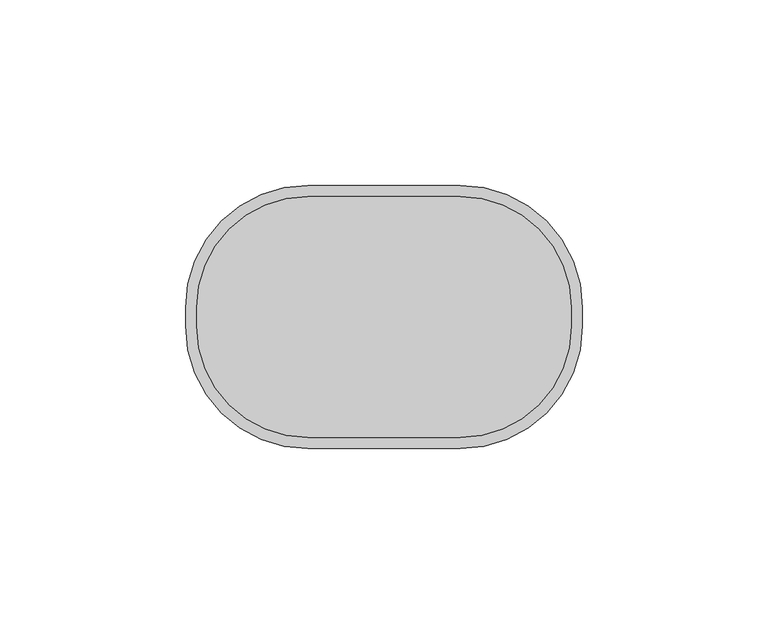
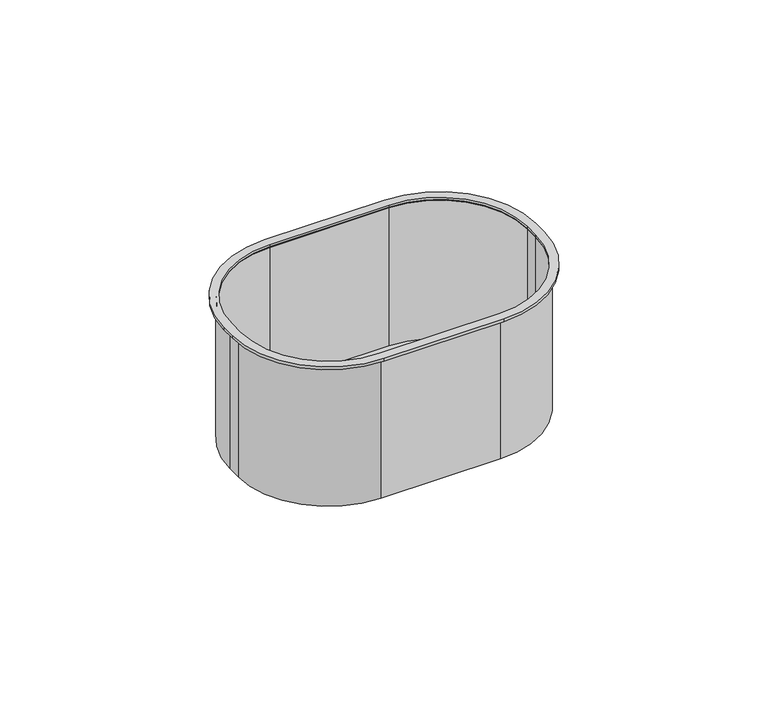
"""IFC4 building model written with IfcOpenShell, lengths in millimetres: proxy geometry, 00-Scatola da cartongesso : Scatola 3 moduli."""

from ifc_helpers import new_model, si_unit, point, frame, frame_2d, origin, origin_with_axes, place, context, project, spatial, polyline, circle_curve, trimmed, segment, composite_curve, outline, extrude, source, transform, mapped, element, save


def electrical_fixtures_69d80692(model_context):
    return source(origin(), model_context, "Body", "SweptSolid", [
        extrude(outline(composite_curve([segment(trimmed(circle_curve(frame_2d((20.5, 2.5)), 30.0), [point((20.5, 32.5))], [point((50.5, 2.5))], False, "CARTESIAN"), True, "CONTINUOUS"), segment(polyline([(50.5, 2.5), (50.5, -2.5)]), True, "CONTINUOUS"), segment(trimmed(circle_curve(frame_2d((20.5, -2.5)), 30.0), [point((50.5, -2.5))], [point((20.5, -32.5))], False, "CARTESIAN"), True, "CONTINUOUS"), segment(polyline([(20.5, -32.5), (-20.5, -32.5)]), True, "CONTINUOUS"), segment(trimmed(circle_curve(frame_2d((-20.5, -2.5)), 30.0), [point((-20.5, -32.5))], [point((-50.5, -2.5))], False, "CARTESIAN"), True, "CONTINUOUS"), segment(polyline([(-50.5, -2.5), (-50.5, 2.5)]), True, "CONTINUOUS"), segment(trimmed(circle_curve(frame_2d((-20.5, 2.5)), 30.0), [point((-50.5, 2.5))], [point((-20.5, 32.5))], False, "CARTESIAN"), True, "CONTINUOUS"), segment(polyline([(-20.5, 32.5), (20.5, 32.5)]), True, "CONTINUOUS")], self_intersect=False)), frame((0.0, 0.0, -51.0), z_axis=(0.0, 0.0, 1.0), x_axis=(1.0, 0.0, 0.0)), (0.0, 0.0, 1.0), 1.0),
        extrude(outline(composite_curve([segment(trimmed(circle_curve(frame_2d((20.5, 2.5)), 31.0), [point((20.5, 33.5))], [point((51.5, 2.5))], False, "CARTESIAN"), True, "CONTINUOUS"), segment(polyline([(51.5, 2.5), (51.5, -2.5)]), True, "CONTINUOUS"), segment(trimmed(circle_curve(frame_2d((20.5, -2.5)), 31.0), [point((51.5, -2.5))], [point((20.5, -33.5))], False, "CARTESIAN"), True, "CONTINUOUS"), segment(polyline([(20.5, -33.5), (-20.5, -33.5)]), True, "CONTINUOUS"), segment(trimmed(circle_curve(frame_2d((-20.5, -2.5)), 31.0), [point((-20.5, -33.5))], [point((-51.5, -2.5))], False, "CARTESIAN"), True, "CONTINUOUS"), segment(polyline([(-51.5, -2.5), (-51.5, 2.5)]), True, "CONTINUOUS"), segment(trimmed(circle_curve(frame_2d((-20.5, 2.5)), 31.0), [point((-51.5, 2.5))], [point((-20.5, 33.5))], False, "CARTESIAN"), True, "CONTINUOUS"), segment(polyline([(-20.5, 33.5), (20.5, 33.5)]), True, "CONTINUOUS")], self_intersect=False), holes=[composite_curve([segment(polyline([(20.5, 32.5), (-20.5, 32.5)]), True, "CONTINUOUS"), segment(trimmed(circle_curve(frame_2d((-20.5, 2.5)), 30.0), [point((-20.5, 32.5))], [point((-50.5, 2.5))], True, "CARTESIAN"), True, "CONTINUOUS"), segment(polyline([(-50.5, 2.5), (-50.5, -2.5)]), True, "CONTINUOUS"), segment(trimmed(circle_curve(frame_2d((-20.5, -2.5)), 30.0), [point((-50.5, -2.5))], [point((-20.5, -32.5))], True, "CARTESIAN"), True, "CONTINUOUS"), segment(polyline([(-20.5, -32.5), (20.5, -32.5)]), True, "CONTINUOUS"), segment(trimmed(circle_curve(frame_2d((20.5, -2.5)), 30.0), [point((20.5, -32.5))], [point((50.5, -2.5))], True, "CARTESIAN"), True, "CONTINUOUS"), segment(polyline([(50.5, -2.5), (50.5, 2.5)]), True, "CONTINUOUS"), segment(trimmed(circle_curve(frame_2d((20.5, 2.5)), 30.0), [point((50.5, 2.5))], [point((20.5, 32.5))], True, "CARTESIAN"), True, "CONTINUOUS")], self_intersect=False)]), frame((0.0, 0.0, -51.0), z_axis=(0.0, 0.0, 1.0), x_axis=(1.0, 0.0, 0.0)), (0.0, 0.0, 1.0), 51.0),
        extrude(outline(composite_curve([segment(trimmed(circle_curve(frame_2d((20.5, 2.5)), 33.0), [point((20.5, 35.5))], [point((53.5, 2.5))], False, "CARTESIAN"), True, "CONTINUOUS"), segment(polyline([(53.5, 2.5), (53.5, -2.5)]), True, "CONTINUOUS"), segment(trimmed(circle_curve(frame_2d((20.5, -2.5)), 33.0), [point((53.5, -2.5))], [point((20.5, -35.5))], False, "CARTESIAN"), True, "CONTINUOUS"), segment(polyline([(20.5, -35.5), (-20.5, -35.5)]), True, "CONTINUOUS"), segment(trimmed(circle_curve(frame_2d((-20.5, -2.5)), 33.0), [point((-20.5, -35.5))], [point((-53.5, -2.5))], False, "CARTESIAN"), True, "CONTINUOUS"), segment(polyline([(-53.5, -2.5), (-53.5, 2.5)]), True, "CONTINUOUS"), segment(trimmed(circle_curve(frame_2d((-20.5, 2.5)), 33.0), [point((-53.5, 2.5))], [point((-20.5, 35.5))], False, "CARTESIAN"), True, "CONTINUOUS"), segment(polyline([(-20.5, 35.5), (20.5, 35.5)]), True, "CONTINUOUS")], self_intersect=False), holes=[composite_curve([segment(polyline([(20.5, 32.5), (-20.5, 32.5)]), True, "CONTINUOUS"), segment(trimmed(circle_curve(frame_2d((-20.5, 2.5)), 30.0), [point((-20.5, 32.5))], [point((-50.5, 2.5))], True, "CARTESIAN"), True, "CONTINUOUS"), segment(polyline([(-50.5, 2.5), (-50.5, -2.5)]), True, "CONTINUOUS"), segment(trimmed(circle_curve(frame_2d((-20.5, -2.5)), 30.0), [point((-50.5, -2.5))], [point((-20.5, -32.5))], True, "CARTESIAN"), True, "CONTINUOUS"), segment(polyline([(-20.5, -32.5), (20.5, -32.5)]), True, "CONTINUOUS"), segment(trimmed(circle_curve(frame_2d((20.5, -2.5)), 30.0), [point((20.5, -32.5))], [point((50.5, -2.5))], True, "CARTESIAN"), True, "CONTINUOUS"), segment(polyline([(50.5, -2.5), (50.5, 2.5)]), True, "CONTINUOUS"), segment(trimmed(circle_curve(frame_2d((20.5, 2.5)), 30.0), [point((50.5, 2.5))], [point((20.5, 32.5))], True, "CARTESIAN"), True, "CONTINUOUS")], self_intersect=False)]), origin_with_axes(), (0.0, 0.0, 1.0), 1.0),
    ])


if __name__ == "__main__":
    model = new_model("IFC4")
    model_context = context("Model", 3, world=origin())
    ifc_project = project(units=[si_unit("LENGTHUNIT", "METRE", prefix="MILLI")], contexts=[model_context])
    site = spatial("IfcSite", under=ifc_project)
    building = spatial("IfcBuilding", under=site)
    placement = place(None, origin())
    electrical_fixtures_shape = electrical_fixtures_69d80692(model_context)
    element("IfcBuildingElementProxy", 1, Name="00-Scatola da cartongesso : Scatola 3 moduli", ObjectType="00-Scatola da cartongesso : Scatola 3 moduli", at=placement, inside=building, context=model_context, shape_type="MappedRepresentation", body=[
        mapped(electrical_fixtures_shape, transform((0.0, 0.0, 0.0), x_axis=(1.0, 0.0, 0.0), y_axis=(0.0, 1.0, 0.0), z_axis=(0.0, 0.0, 1.0))),
    ])
    save(model, "model.ifc")
